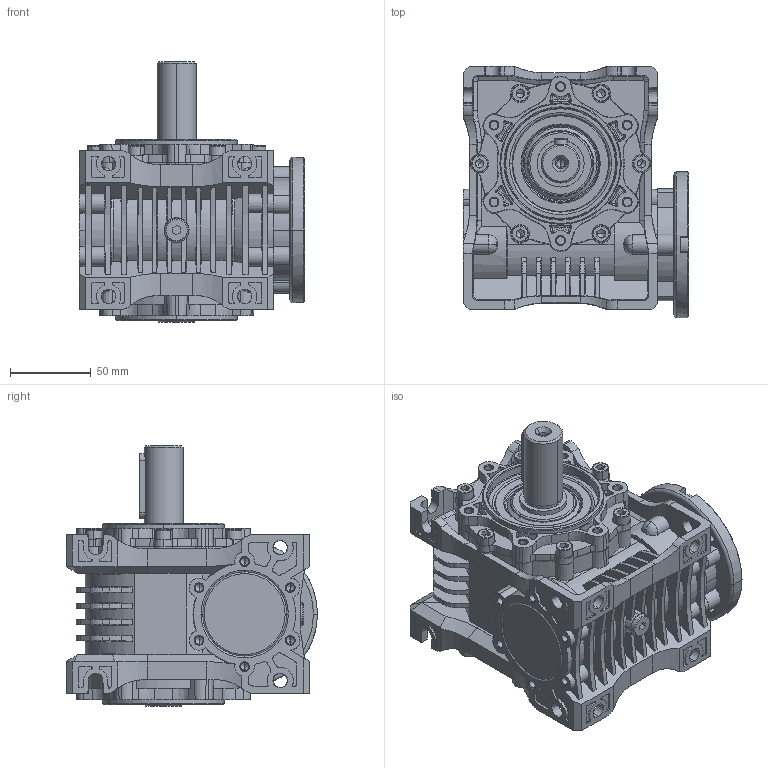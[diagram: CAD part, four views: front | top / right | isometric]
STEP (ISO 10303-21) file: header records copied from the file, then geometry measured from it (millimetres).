
FILE_DESCRIPTION (( 'STEP AP203' ), '1' );
FILE_NAME ('MR-50_90-11-WJ_2-3D.STEP', '2024-02-08T10:58:21', ( '' ), ( '' ), 'SwSTEP 2.0', 'SolidWorks 2022', '' );
FILE_SCHEMA (( 'CONFIG_CONTROL_DESIGN' ));
Products named in the file (1): MR-50_90-11-WJ_2-3D
Bounding box: 139 x 155 x 161 mm (x, y, z)
Volume: 1254653.3 mm3; surface area: 211086.8 mm2
Topology: 1 solids, 34 shells, 2813 faces, 7437 edges, 4704 vertices
Faces by surface type: plane 1026, cone 931, cylinder 615, torus 144, bspline 97
Entity records: 105820 total; most frequent: CARTESIAN_POINT 37094, ORIENTED_EDGE 14650, DIRECTION 14486, EDGE_CURVE 7325, AXIS2_PLACEMENT_3D 5512, VERTEX_POINT 4704, VECTOR 3462, LINE 3462
